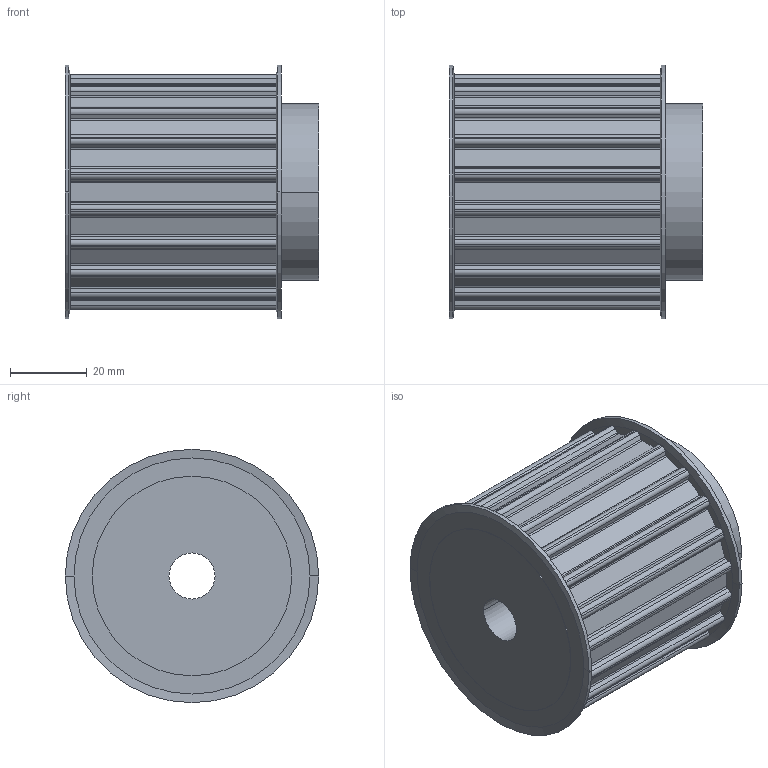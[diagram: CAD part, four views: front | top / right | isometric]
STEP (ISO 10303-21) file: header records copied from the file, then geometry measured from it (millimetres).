
FILE_DESCRIPTION( ( '' ), '1' );
FILE_NAME( 'C:/Users/Stangenbergd/Documents/CAD_Step/1/16852000.stp', '2021-10-19T09:50:32', ( '' ), ( '' ), ' ', ' ', ' ' );
FILE_SCHEMA( ( 'CONFIG_CONTROL_DESIGN' ) );
Length unit declared in the file: millimetre
Products named in the file (1): 1
Bounding box: 66.17 x 66 x 66 mm (x, y, z)
Volume: 161856.1 mm3; surface area: 25136.8 mm2
Topology: 1 solids, 1 shells, 265 faces, 692 edges, 432 vertices
Faces by surface type: plane 145, cylinder 112, cone 8
Entity records: 8282 total; most frequent: DIRECTION 1616, CARTESIAN_POINT 1390, ORIENTED_EDGE 1384, EDGE_CURVE 692, AXIS2_PLACEMENT_3D 658, VERTEX_POINT 432, CIRCLE 392, LINE 300
